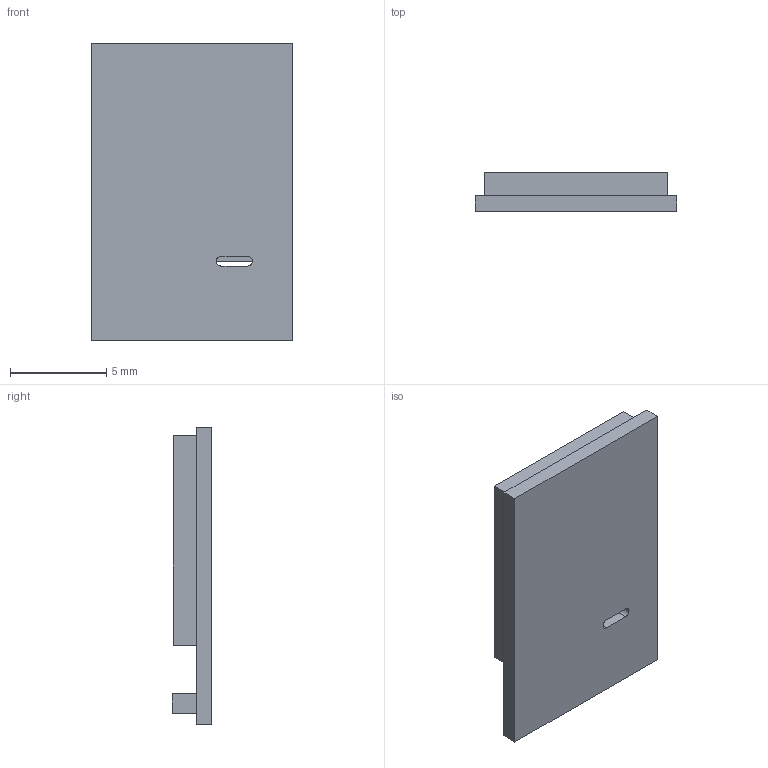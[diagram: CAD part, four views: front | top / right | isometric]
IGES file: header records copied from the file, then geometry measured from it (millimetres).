
Start section:  PTC IGES file: mdbt50q.igs
Global section: file name: mdbt50q.igs; native system: Creo Parametric by Parametric Technology Corporation; preprocessor: 2012230; author: Jack; organization: Unknown; date: 20180614.224446; units: millimetre
Bounding box: 10.5 x 2.05 x 15.5 mm (x, y, z)
Surface area: 441.2 mm2 (no closed solid volume)
Topology: 0 solids, 0 shells, 21 faces, 104 edges, 104 vertices
Faces by surface type: bspline 19, revolution 2
